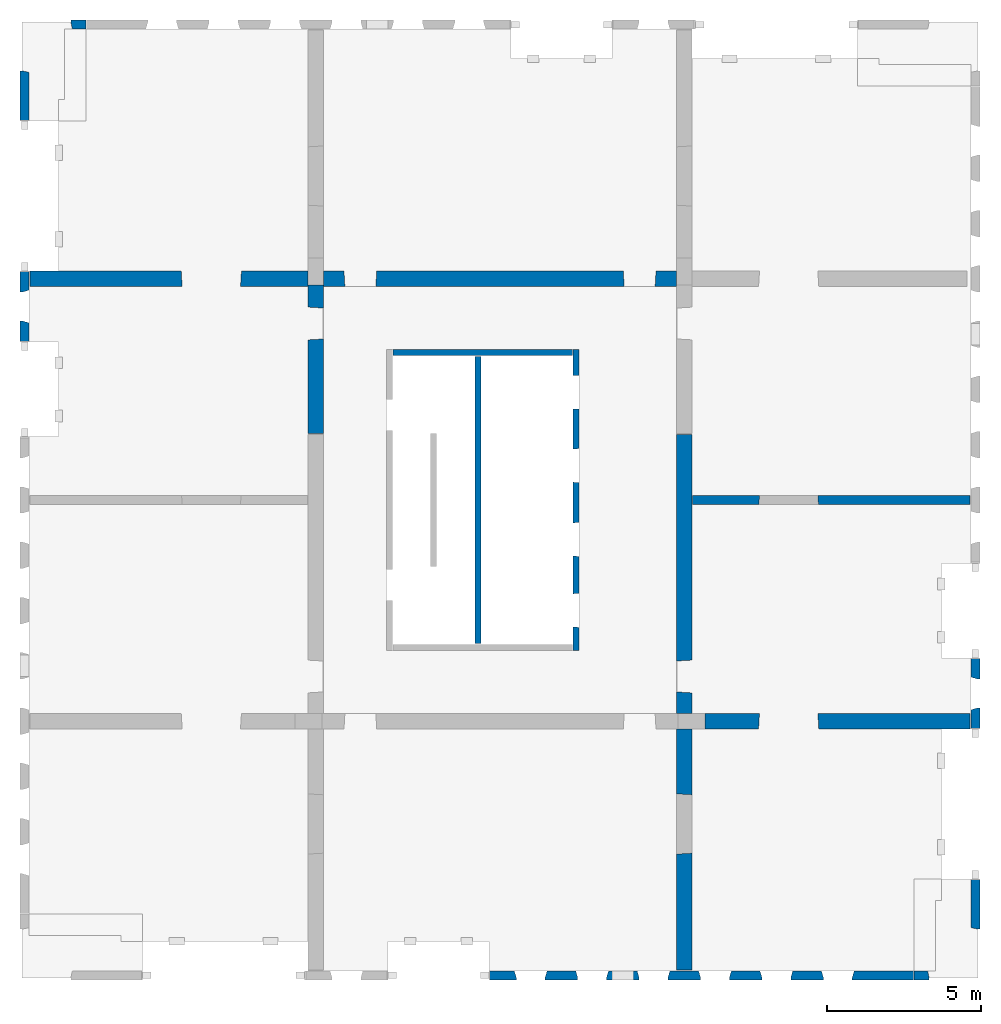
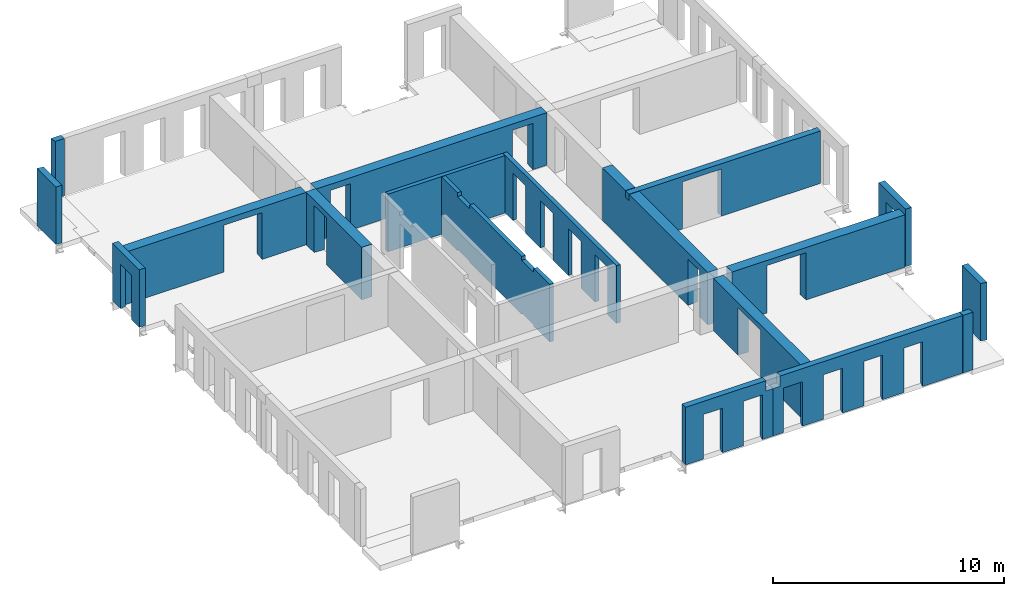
# One storey, part 3 of 4: 18 walls, 36 openings.
"""IFC2X3 building model written with IfcOpenShell, lengths in millimetres."""

from ifc_helpers import new_model, entity, si_unit, converted_unit, derived_unit, direction, frame, frame_2d, origin, origin_2d_with_axis, place, context, subcontext, project, spatial, rectangle, extrude, faceted_brep, material, layer, layer_set, layer_usage, type_object, element, save


model = new_model("IFC2X3")

# Units and contexts
model_context = context("Model", 3, precision=0.01, world=origin(), true_north=direction((6.12303176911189e-17, 1.0)))
body_context = subcontext(model_context, "Body", "Model", "MODEL_VIEW")
ifc_project = project(units=[si_unit("LENGTHUNIT", "METRE", prefix="MILLI"), si_unit("AREAUNIT", "SQUARE_METRE"), si_unit("VOLUMEUNIT", "CUBIC_METRE"), converted_unit("PLANEANGLEUNIT", "DEGREE", entity("IfcRatioMeasure", 0.0174532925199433), si_unit("PLANEANGLEUNIT", "RADIAN"), dimensions=[0, 0, 0, 0, 0, 0, 0]), si_unit("MASSUNIT", "GRAM", prefix="KILO"), derived_unit("MASSDENSITYUNIT", [(si_unit("MASSUNIT", "GRAM", prefix="KILO"), 1), (si_unit("LENGTHUNIT", "METRE"), -3)]), si_unit("TIMEUNIT", "SECOND"), si_unit("FREQUENCYUNIT", "HERTZ"), si_unit("THERMODYNAMICTEMPERATUREUNIT", "DEGREE_CELSIUS"), derived_unit("THERMALTRANSMITTANCEUNIT", [(si_unit("MASSUNIT", "GRAM", prefix="KILO"), 1), (si_unit("THERMODYNAMICTEMPERATUREUNIT", "KELVIN"), -1), (si_unit("TIMEUNIT", "SECOND"), -3)]), derived_unit("VOLUMETRICFLOWRATEUNIT", [(si_unit("LENGTHUNIT", "METRE"), 3), (si_unit("TIMEUNIT", "SECOND"), -1)]), si_unit("ELECTRICCURRENTUNIT", "AMPERE"), si_unit("ELECTRICVOLTAGEUNIT", "VOLT"), si_unit("POWERUNIT", "WATT"), si_unit("FORCEUNIT", "NEWTON", prefix="KILO"), si_unit("ILLUMINANCEUNIT", "LUX"), si_unit("LUMINOUSFLUXUNIT", "LUMEN"), si_unit("LUMINOUSINTENSITYUNIT", "CANDELA"), derived_unit("USERDEFINED", [(si_unit("MASSUNIT", "GRAM", prefix="KILO"), -1), (si_unit("LENGTHUNIT", "METRE"), -2), (si_unit("TIMEUNIT", "SECOND"), 3), (si_unit("LUMINOUSFLUXUNIT", "LUMEN"), 1)]), derived_unit("LINEARVELOCITYUNIT", [(si_unit("LENGTHUNIT", "METRE"), 1), (si_unit("TIMEUNIT", "SECOND"), -1)]), si_unit("PRESSUREUNIT", "PASCAL"), derived_unit("USERDEFINED", [(si_unit("LENGTHUNIT", "METRE"), -2), (si_unit("MASSUNIT", "GRAM", prefix="KILO"), 1), (si_unit("TIMEUNIT", "SECOND"), -2)])], contexts=[model_context])

# Site, building, storey
site_placement = place(None, origin())
site = spatial("IfcSite", under=ifc_project, at=site_placement, Name="Default", CompositionType="ELEMENT")
building_placement = place(site_placement, origin())
building = spatial("IfcBuilding", under=site, at=building_placement, Name="niet gebruiken", CompositionType="ELEMENT")
storey_placement = place(building_placement, frame((0.0, 0.0, 33300.0)))
storey = spatial("IfcBuildingStorey", under=building, at=storey_placement, Name="10 tiende verdieping", CompositionType="ELEMENT", Elevation=33300.0)

# Wall, openings
ifc_material = material(Name="NLRS_f2_beton prefab")
ifc_layer_1 = layer(ifc_material, 200.0)
ifc_layer_set_1 = layer_set([ifc_layer_1], Name="Basic Wall:NLRS_22.21_WA_beton prefab d=200_gen")
ifc_layer_usage_1 = layer_usage(ifc_layer_set_1, "AXIS2", "NEGATIVE", 100.0)
wall_type_1 = type_object("IfcWallType", Name="Basic Wall:NLRS_22.21_WA_beton prefab d=200_gen", PredefinedType="STANDARD", material=ifc_layer_set_1)
wall_1_placement = place(storey_placement, frame((144230.0, 22400.0, -50.0), z_axis=(0.0, 0.0, 1.0), x_axis=(0.0, -1.0, 0.0)))
wall_1 = element("IfcWallStandardCase", 1, at=wall_1_placement, inside=storey, type_object=wall_type_1, material=ifc_layer_usage_1, Name="Basic Wall:NLRS_22.21_WA_beton prefab d=200_gen", ObjectType="Basic Wall:NLRS_22.21_WA_beton prefab d=200_gen", context=body_context, shape_type="SweptSolid", body=[
    extrude(rectangle(XDim=9800.0, YDim=199.999999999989, at=frame_2d((4900.0, -3.69482222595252e-13), x_axis=(-1.0, 0.0))), origin(), (0.0, 0.0, 1.0), 3039.99999999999),
])
opening_1_placement = place(wall_1_placement, frame((9047.0, -100.0, 0.0)))
element("IfcOpeningElement", 2, at=opening_1_placement, cuts=wall_1, Name="Basic Wall:NLRS_22.21_WA_beton prefab d=200_gen", ObjectType="Opening", context=body_context, shape_type="Brep", body=[
    faceted_brep([(-1104.0, 200.0, 2502.0), (-1104.0, 200.0, 0.0), (-1092.0, 0.0, 0.0), (-1092.0, 0.0, 2490.0), (0.0, 200.0, 0.0), (-12.0, 0.0, 0.0), (-12.0, 0.0, 2490.0), (0.0, 200.0, 2502.0)], [[[0, 1, 2, 3]], [[1, 4, 5, 2]], [[6, 3, 2, 5]], [[7, 4, 1, 0]], [[7, 0, 3, 6]], [[4, 7, 6, 5]]]),
])
opening_2_placement = place(wall_1_placement, frame((6737.0, -100.0, 0.0)))
element("IfcOpeningElement", 3, at=opening_2_placement, cuts=wall_1, Name="Basic Wall:NLRS_22.21_WA_beton prefab d=200_gen", ObjectType="Opening", context=body_context, shape_type="Brep", body=[
    faceted_brep([(-1104.0, 200.0, 2502.0), (-1104.0, 200.0, 0.0), (-1092.0, 0.0, 0.0), (-1092.0, 0.0, 2490.0), (0.0, 200.0, 0.0), (-12.0, 0.0, 0.0), (-12.0, 0.0, 2490.0), (0.0, 200.0, 2502.0)], [[[0, 1, 2, 3]], [[1, 4, 5, 2]], [[6, 3, 2, 5]], [[7, 4, 1, 0]], [[7, 0, 3, 6]], [[4, 7, 6, 5]]]),
])
opening_3_placement = place(wall_1_placement, frame((4332.0, -100.0, 0.0)))
element("IfcOpeningElement", 4, at=opening_3_placement, cuts=wall_1, Name="Basic Wall:NLRS_22.21_WA_beton prefab d=200_gen", ObjectType="Opening", context=body_context, shape_type="Brep", body=[
    faceted_brep([(-1104.0, 200.0, 2502.0), (-1104.0, 200.0, 0.0), (-1092.0, 0.0, 0.0), (-1092.0, 0.0, 2490.0), (0.0, 200.0, 0.0), (-12.0, 0.0, 0.0), (-12.0, 0.0, 2490.0), (0.0, 200.0, 2502.0)], [[[0, 1, 2, 3]], [[1, 4, 5, 2]], [[6, 3, 2, 5]], [[7, 4, 1, 0]], [[7, 0, 3, 6]], [[4, 7, 6, 5]]]),
])
opening_4_placement = place(wall_1_placement, frame((1942.0, -100.0, 0.0)))
element("IfcOpeningElement", 5, at=opening_4_placement, cuts=wall_1, Name="Basic Wall:NLRS_22.21_WA_beton prefab d=200_gen", ObjectType="Opening", context=body_context, shape_type="Brep", body=[
    faceted_brep([(-1104.0, 200.0, 2502.0), (-1104.0, 200.0, 0.0), (-1092.0, 0.0, 0.0), (-1092.0, 0.0, 2490.0), (0.0, 200.0, 0.0), (-12.0, 0.0, 0.0), (-12.0, 0.0, 2490.0), (0.0, 200.0, 2502.0)], [[[0, 1, 2, 3]], [[1, 4, 5, 2]], [[6, 3, 2, 5]], [[7, 4, 1, 0]], [[7, 0, 3, 6]], [[4, 7, 6, 5]]]),
])

ifc_layer_usage_2 = layer_usage(ifc_layer_set_1, "AXIS2", "NEGATIVE", 100.0)
wall_2_placement = place(storey_placement, frame((141030.0, 22180.0, -50.0), z_axis=(0.0, 0.0, 1.0), x_axis=(0.0, -1.0, 0.0)))
wall_2 = element("IfcWallStandardCase", 6, at=wall_2_placement, inside=storey, type_object=wall_type_1, material=ifc_layer_usage_2, Name="Basic Wall:NLRS_22.21_WA_beton prefab d=200_gen", ObjectType="Basic Wall:NLRS_22.21_WA_beton prefab d=200_gen", context=body_context, shape_type="SweptSolid", body=[
    extrude(rectangle(XDim=9360.0, YDim=199.999999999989, at=frame_2d((4680.0, -2.8421709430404e-14), x_axis=(-1.0, 0.0))), origin(), (0.0, 0.0, 1.0), 3039.99999999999),
])
opening_5_placement = place(wall_2_placement, origin())
element("IfcOpeningElement", 7, at=opening_5_placement, cuts=wall_2, Name="Basic Wall:NLRS_22.21_WA_beton prefab d=200_gen", ObjectType="Opening", context=body_context, shape_type="SweptSolid", body=[
    extrude(rectangle(XDim=70.0000000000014, YDim=1044.00000000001, at=origin_2d_with_axis()), frame((7452.0, -100.0, 35.0), z_axis=(0.0, 1.0, 0.0), x_axis=(0.0, 0.0, -1.0)), (0.0, 0.0, 1.0), 199.999999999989),
])
opening_6_placement = place(wall_2_placement, origin())
element("IfcOpeningElement", 8, at=opening_6_placement, cuts=wall_2, Name="Basic Wall:NLRS_22.21_WA_beton prefab d=200_gen", ObjectType="Opening", context=body_context, shape_type="SweptSolid", body=[
    extrude(rectangle(XDim=70.0000000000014, YDim=1044.00000000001, at=origin_2d_with_axis()), frame((1908.0, -100.0, 35.0), z_axis=(0.0, 1.0, 0.0), x_axis=(0.0, 0.0, -1.0)), (0.0, 0.0, 1.0), 199.999999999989),
])
opening_7_placement = place(wall_2_placement, origin())
element("IfcOpeningElement", 9, at=opening_7_placement, cuts=wall_2, Name="Basic Wall:NLRS_22.21_WA_beton prefab d=200_gen", ObjectType="Opening", context=body_context, shape_type="SweptSolid", body=[
    extrude(rectangle(XDim=199.999999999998, YDim=1044.00000000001, at=frame_2d((-4.33431068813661e-12, 0.0), x_axis=(1.0, 0.0))), frame((1908.0, -100.0, 2940.0), z_axis=(0.0, 1.0, 0.0), x_axis=(0.0, 0.0, -1.0)), (0.0, 0.0, 1.0), 199.999999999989),
])
opening_8_placement = place(wall_2_placement, origin())
element("IfcOpeningElement", 10, at=opening_8_placement, cuts=wall_2, Name="Basic Wall:NLRS_22.21_WA_beton prefab d=200_gen", ObjectType="Opening", context=body_context, shape_type="SweptSolid", body=[
    extrude(rectangle(XDim=199.999999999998, YDim=1044.00000000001, at=frame_2d((-4.33431068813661e-12, 0.0), x_axis=(1.0, 0.0))), frame((7452.0, -100.0, 2940.0), z_axis=(0.0, 1.0, 0.0), x_axis=(0.0, 0.0, -1.0)), (0.0, 0.0, 1.0), 199.999999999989),
])
opening_9_placement = place(wall_2_placement, origin())
element("IfcOpeningElement", 11, at=opening_9_placement, cuts=wall_2, Name="Basic Wall:NLRS_22.21_WA_beton prefab d=200_gen", ObjectType="Recess", context=body_context, shape_type="SweptSolid", body=[
    extrude(rectangle(XDim=399.999999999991, YDim=280.000000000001, at=frame_2d((-2.1600499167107e-12, 2.1600499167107e-12), x_axis=(0.0, 1.0))), frame((770.0, -60.0, 438.0), z_axis=(0.0, 1.0, 0.0), x_axis=(1.0, 0.0, 0.0)), (0.0, 0.0, 1.0), 159.999999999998),
])
opening_10_placement = place(wall_2_placement, origin())
element("IfcOpeningElement", 12, at=opening_10_placement, cuts=wall_2, Name="Basic Wall:NLRS_22.21_WA_beton prefab d=200_gen", ObjectType="Recess", context=body_context, shape_type="SweptSolid", body=[
    extrude(rectangle(XDim=399.999999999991, YDim=280.000000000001, at=frame_2d((-2.1600499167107e-12, -2.1600499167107e-12), x_axis=(0.0, 1.0))), frame((1570.0, -60.0, 438.0), z_axis=(0.0, 1.0, 0.0), x_axis=(1.0, 0.0, 0.0)), (0.0, 0.0, 1.0), 159.999999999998),
])
opening_11_placement = place(wall_2_placement, origin())
element("IfcOpeningElement", 13, at=opening_11_placement, cuts=wall_2, Name="Basic Wall:NLRS_22.21_WA_beton prefab d=200_gen", ObjectType="Recess", context=body_context, shape_type="SweptSolid", body=[
    extrude(rectangle(XDim=399.999999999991, YDim=279.999999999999, at=frame_2d((-1.08002495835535e-12, -2.1600499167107e-12), x_axis=(0.0, 1.0))), frame((3160.0, -60.0, 438.0), z_axis=(0.0, 1.0, 0.0), x_axis=(1.0, 0.0, 0.0)), (0.0, 0.0, 1.0), 159.999999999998),
])
opening_12_placement = place(wall_2_placement, origin())
element("IfcOpeningElement", 14, at=opening_12_placement, cuts=wall_2, Name="Basic Wall:NLRS_22.21_WA_beton prefab d=200_gen", ObjectType="Recess", context=body_context, shape_type="SweptSolid", body=[
    extrude(rectangle(XDim=399.999999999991, YDim=279.999999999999, at=frame_2d((1.08002495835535e-12, -2.1600499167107e-12), x_axis=(0.0, 1.0))), frame((3960.0, -60.0, 438.0), z_axis=(0.0, 1.0, 0.0), x_axis=(1.0, 0.0, 0.0)), (0.0, 0.0, 1.0), 159.999999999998),
])

# Wall
ifc_layer_usage_3 = layer_usage(ifc_layer_set_1, "AXIS2", "NEGATIVE", 100.0)
wall_3_placement = place(storey_placement, frame((138270.0, 22300.0, -50.0)))
element("IfcWallStandardCase", 15, at=wall_3_placement, inside=storey, type_object=wall_type_1, material=ifc_layer_usage_3, Name="Basic Wall:NLRS_22.21_WA_beton prefab d=200_gen", ObjectType="Basic Wall:NLRS_22.21_WA_beton prefab d=200_gen", context=body_context, shape_type="SweptSolid", body=[
    extrude(rectangle(XDim=5839.99999999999, YDim=199.999999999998, at=frame_2d((2919.99999999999, -7.60280727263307e-13), x_axis=(-1.0, 0.0))), origin(), (0.0, 0.0, 1.0), 3039.99999999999),
])

# Wall, openings
ifc_layer_2 = layer(ifc_material, 300.0)
ifc_layer_set_2 = layer_set([ifc_layer_2], Name="Basic Wall:NLRS_22.21_WA_beton prefab d=300_gen")
ifc_layer_usage_4 = layer_usage(ifc_layer_set_2, "AXIS2", "NEGATIVE", 150.0)
wall_type_2 = type_object("IfcWallType", Name="Basic Wall:NLRS_22.21_WA_beton prefab d=300_gen", PredefinedType="STANDARD", material=ifc_layer_set_2)
wall_4_placement = place(storey_placement, frame((157060.0, 17500.0, -70.0), z_axis=(0.0, 0.0, 1.0), x_axis=(-1.0, 0.0, 0.0)))
wall_4 = element("IfcWallStandardCase", 16, at=wall_4_placement, inside=storey, type_object=wall_type_2, material=ifc_layer_usage_4, Name="Basic Wall:NLRS_22.21_WA_beton prefab d=300_gen", ObjectType="Basic Wall:NLRS_22.21_WA_beton prefab d=300_gen", context=body_context, shape_type="SweptSolid", body=[
    extrude(rectangle(XDim=9559.99999999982, YDim=300.000000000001, at=frame_2d((4779.99999999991, 8.38440428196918e-13), x_axis=(-1.0, 0.0))), origin(), (0.0, 0.0, 1.0), 2770.0),
])
opening_13_placement = place(wall_4_placement, frame((6878.0, 150.0, 0.0)))
element("IfcOpeningElement", 17, at=opening_13_placement, cuts=wall_4, Name="Basic Wall:NLRS_22.21_WA_beton prefab d=300_gen", ObjectType="Opening", context=body_context, shape_type="Brep", body=[
    faceted_brep([(-18.0, -300.0, 2470.0), (-1918.0, -300.0, 2470.0), (-1918.0, -300.0, 0.0), (-18.0, -300.0, 0.0), (0.0, 0.0, 2488.0), (0.0, 0.0, 0.0), (-1936.0, 0.0, 0.0), (-1936.0, 0.0, 2488.0)], [[[0, 1, 2, 3]], [[4, 5, 6, 7]], [[4, 7, 1, 0]], [[7, 6, 2, 1]], [[6, 5, 3, 2]], [[5, 4, 0, 3]]]),
])
opening_14_placement = place(wall_4_placement, origin())
element("IfcOpeningElement", 18, at=opening_14_placement, cuts=wall_4, Name="Basic Wall:NLRS_22.21_WA_beton prefab d=300_gen", ObjectType="Opening", context=body_context, shape_type="SweptSolid", body=[
    extrude(rectangle(XDim=2440.0, YDim=520.000000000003, at=frame_2d((-8.64019966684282e-12, 2.1600499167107e-12), x_axis=(0.0, 1.0))), frame((9300.0, 150.0, 1220.0), z_axis=(0.0, -1.0, 0.0), x_axis=(1.0, 0.0, 0.0)), (0.0, 0.0, 1.0), 300.0),
])

ifc_layer_3 = layer(ifc_material, 500.0)
ifc_layer_set_3 = layer_set([ifc_layer_3], Name="Basic Wall:NLRS_22.21_WA_beton prefab d=500_gen")
ifc_layer_usage_5 = layer_usage(ifc_layer_set_3, "AXIS2", "NEGATIVE", 250.0)
wall_type_3 = type_object("IfcWallType", Name="Basic Wall:NLRS_22.21_WA_beton prefab d=500_gen", PredefinedType="STANDARD", material=ifc_layer_set_3)
wall_5_placement = place(storey_placement, frame((136000.003540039, 24700.0, -70.0)))
wall_5 = element("IfcWallStandardCase", 19, at=wall_5_placement, inside=storey, type_object=wall_type_3, material=ifc_layer_usage_5, Name="Basic Wall:NLRS_22.21_WA_beton prefab d=500_gen", ObjectType="Basic Wall:NLRS_22.21_WA_beton prefab d=500_gen", context=body_context, shape_type="SweptSolid", body=[
    extrude(rectangle(XDim=11499.9964599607, YDim=499.999999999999, at=frame_2d((5749.99822998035, 0.0), x_axis=(-1.0, 0.0))), origin(), (0.0, 0.0, 1.0), 2770.00000000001),
])
opening_15_placement = place(wall_5_placement, frame((669.996459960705, -250.0, 0.0)))
element("IfcOpeningElement", 20, at=opening_15_placement, cuts=wall_5, Name="Basic Wall:NLRS_22.21_WA_beton prefab d=500_gen", ObjectType="Opening", context=body_context, shape_type="Brep", body=[
    faceted_brep([(1066.0, 500.0, 2478.0), (1036.0, 0.0, 2448.0), (1036.0, 0.0, 0.0), (1066.0, 500.0, 0.0), (30.0, 0.0, 0.0), (0.0, 500.0, 0.0), (30.0, 0.0, 2448.0), (0.0, 500.0, 2478.0)], [[[0, 1, 2, 3]], [[3, 2, 4, 5]], [[6, 4, 2, 1]], [[7, 0, 3, 5]], [[7, 6, 1, 0]], [[5, 4, 6, 7]]]),
])
opening_16_placement = place(wall_5_placement, frame((9763.99645996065, -250.0, 0.0)))
element("IfcOpeningElement", 21, at=opening_16_placement, cuts=wall_5, Name="Basic Wall:NLRS_22.21_WA_beton prefab d=500_gen", ObjectType="Opening", context=body_context, shape_type="Brep", body=[
    faceted_brep([(30.0, 0.0, 2448.0), (30.0, 0.0, 0.0), (1036.0, 0.0, 0.0), (1036.0, 0.0, 2448.0), (0.0, 500.0, 2478.0), (1066.0, 500.0, 2478.0), (1066.0, 500.0, 0.0), (0.0, 500.0, 0.0)], [[[0, 1, 2, 3]], [[4, 5, 6, 7]], [[4, 0, 3, 5]], [[5, 3, 2, 6]], [[6, 2, 1, 7]], [[7, 1, 0, 4]]]),
])

# Wall, opening
ifc_layer_usage_6 = layer_usage(ifc_layer_set_3, "AXIS2", "NEGATIVE", 250.0)
wall_6_placement = place(storey_placement, frame((135750.0, 24500.0, -70.0), z_axis=(0.0, 0.0, 1.0), x_axis=(0.0, -1.0, 0.0)))
wall_6 = element("IfcWallStandardCase", 22, at=wall_6_placement, inside=storey, type_object=wall_type_3, material=ifc_layer_usage_6, Name="Basic Wall:NLRS_22.21_WA_beton prefab d=500_gen", ObjectType="Basic Wall:NLRS_22.21_WA_beton prefab d=500_gen", context=body_context, shape_type="SweptSolid", body=[
    extrude(rectangle(XDim=4840.0, YDim=499.99999999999, at=frame_2d((2420.0, 0.0), x_axis=(-1.0, 0.0))), origin(), (0.0, 0.0, 1.0), 2770.00000000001),
])
opening_17_placement = place(wall_6_placement, frame((1786.0, -250.0, 0.0)))
element("IfcOpeningElement", 23, at=opening_17_placement, cuts=wall_6, Name="Basic Wall:NLRS_22.21_WA_beton prefab d=500_gen", ObjectType="Opening", context=body_context, shape_type="Brep", body=[
    faceted_brep([(-1066.0, 0.0, 2478.0), (-1036.0, 500.0, 2448.0), (-1036.0, 500.0, 0.0), (-1066.0, 0.0, 0.0), (-30.0, 500.0, 0.0), (0.0, 0.0, 0.0), (-30.0, 500.0, 2448.0), (0.0, 0.0, 2478.0)], [[[0, 1, 2, 3]], [[3, 2, 4, 5]], [[6, 4, 2, 1]], [[7, 0, 3, 5]], [[7, 6, 1, 0]], [[5, 4, 6, 7]]]),
])

ifc_layer_usage_7 = layer_usage(ifc_layer_set_3, "AXIS2", "NEGATIVE", 250.0)
wall_7_placement = place(storey_placement, frame((147750.0, 10050.0, -70.0), z_axis=(0.0, 0.0, 1.0), x_axis=(0.0, -1.0, 0.0)))
wall_7 = element("IfcWallStandardCase", 24, at=wall_7_placement, inside=storey, type_object=wall_type_3, material=ifc_layer_usage_7, Name="Basic Wall:NLRS_22.21_WA_beton prefab d=500_gen", ObjectType="Basic Wall:NLRS_22.21_WA_beton prefab d=500_gen", context=body_context, shape_type="SweptSolid", body=[
    extrude(rectangle(XDim=7859.99999999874, YDim=499.99999999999, at=frame_2d((3929.99999999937, -5.11590769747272e-13), x_axis=(-1.0, 0.0))), origin(), (0.0, 0.0, 1.0), 2770.0),
])
opening_18_placement = place(wall_7_placement, frame((4080.0, -250.0, 0.0)))
element("IfcOpeningElement", 25, at=opening_18_placement, cuts=wall_7, Name="Basic Wall:NLRS_22.21_WA_beton prefab d=500_gen", ObjectType="Opening", context=body_context, shape_type="Brep", body=[
    faceted_brep([(-30.0, 500.0, 2470.0), (-30.0, 500.0, 0.0), (-1930.0, 500.0, 0.0), (-1930.0, 500.0, 2470.0), (0.0, 0.0, 2500.0), (-1960.0, 0.0, 2500.0), (-1960.0, 0.0, 0.0), (0.0, 0.0, 0.0)], [[[0, 1, 2, 3]], [[4, 5, 6, 7]], [[4, 0, 3, 5]], [[5, 3, 2, 6]], [[6, 2, 1, 7]], [[7, 1, 0, 4]]]),
])

# Wall, openings
ifc_layer_usage_8 = layer_usage(ifc_layer_set_3, "AXIS2", "NEGATIVE", 250.0)
wall_8_placement = place(storey_placement, frame((147750.0, 19640.0, -70.0), z_axis=(0.0, 0.0, 1.0), x_axis=(0.0, -1.0, 0.0)))
wall_8 = element("IfcWallStandardCase", 26, at=wall_8_placement, inside=storey, type_object=wall_type_3, material=ifc_layer_usage_8, Name="Basic Wall:NLRS_22.21_WA_beton prefab d=500_gen", ObjectType="Basic Wall:NLRS_22.21_WA_beton prefab d=500_gen", context=body_context, shape_type="SweptSolid", body=[
    extrude(rectangle(XDim=9089.99999999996, YDim=499.99999999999, at=frame_2d((4544.99999999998, 0.0), x_axis=(-1.0, 0.0))), origin(), (0.0, 0.0, 1.0), 2770.00000000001),
])
opening_19_placement = place(wall_8_placement, frame((8420.0, -250.0, 0.0)))
element("IfcOpeningElement", 27, at=opening_19_placement, cuts=wall_8, Name="Basic Wall:NLRS_22.21_WA_beton prefab d=500_gen", ObjectType="Opening", context=body_context, shape_type="Brep", body=[
    faceted_brep([(-1066.0, 500.0, 2478.0), (-1066.0, 500.0, 0.0), (-1036.0, 0.0, 0.0), (-1036.0, 0.0, 2448.0), (0.0, 500.0, 0.0), (-30.0, 0.0, 0.0), (-30.0, 0.0, 2448.0), (0.0, 500.0, 2478.0)], [[[0, 1, 2, 3]], [[1, 4, 5, 2]], [[6, 3, 2, 5]], [[7, 4, 1, 0]], [[7, 0, 3, 6]], [[4, 7, 6, 5]]]),
])
opening_20_placement = place(wall_8_placement, origin())
element("IfcOpeningElement", 28, at=opening_20_placement, cuts=wall_8, Name="Basic Wall:NLRS_22.21_WA_beton prefab d=500_gen", ObjectType="Opening", context=body_context, shape_type="SweptSolid", body=[
    extrude(rectangle(XDim=350.000000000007, YDim=339.999999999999, at=frame_2d((-1.08002495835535e-12, 0.0), x_axis=(0.0, 1.0))), frame((2140.0, 250.0, 2595.0), z_axis=(0.0, -1.0, 0.0), x_axis=(-1.0, 0.0, 0.0)), (0.0, 0.0, 1.0), 500.0),
])

# Wall, opening
ifc_layer_usage_9 = layer_usage(ifc_layer_set_3, "AXIS2", "NEGATIVE", 250.0)
wall_9_placement = place(storey_placement, frame((148430.0, 10300.0, -70.0)))
wall_9 = element("IfcWallStandardCase", 29, at=wall_9_placement, inside=storey, type_object=wall_type_3, material=ifc_layer_usage_9, Name="Basic Wall:NLRS_22.21_WA_beton prefab d=500_gen", ObjectType="Basic Wall:NLRS_22.21_WA_beton prefab d=500_gen", context=body_context, shape_type="SweptSolid", body=[
    extrude(rectangle(XDim=8630.00000000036, YDim=499.999999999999, at=frame_2d((4315.00000000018, 2.70006239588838e-13), x_axis=(-1.0, 0.0))), origin(), (0.0, 0.0, 1.0), 2770.0),
])
opening_21_placement = place(wall_9_placement, frame((1740.0, -250.0, 0.0)))
element("IfcOpeningElement", 30, at=opening_21_placement, cuts=wall_9, Name="Basic Wall:NLRS_22.21_WA_beton prefab d=500_gen", ObjectType="Opening", context=body_context, shape_type="Brep", body=[
    faceted_brep([(30.0, 500.0, 2470.0), (1930.0, 500.0, 2470.0), (1930.0, 500.0, 0.0), (30.0, 500.0, 0.0), (0.0, 0.0, 2500.0), (0.0, 0.0, 0.0), (1960.0, 0.0, 0.0), (1960.0, 0.0, 2500.0)], [[[0, 1, 2, 3]], [[4, 5, 6, 7]], [[4, 7, 1, 0]], [[7, 6, 2, 1]], [[6, 5, 3, 2]], [[5, 4, 0, 3]]]),
])

ifc_layer_usage_10 = layer_usage(ifc_layer_set_3, "AXIS2", "NEGATIVE", 250.0)
wall_10_placement = place(storey_placement, frame((135500.003540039, 24700.0, -70.0), z_axis=(0.0, 0.0, 1.0), x_axis=(-1.0, 0.0, 0.0)))
wall_10 = element("IfcWallStandardCase", 31, at=wall_10_placement, inside=storey, type_object=wall_type_3, material=ifc_layer_usage_10, Name="Basic Wall:NLRS_22.21_WA_beton prefab d=500_gen", ObjectType="Basic Wall:NLRS_22.21_WA_beton prefab d=500_gen", context=body_context, shape_type="SweptSolid", body=[
    extrude(rectangle(XDim=9060.00354003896, YDim=499.999999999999, at=frame_2d((4530.00177001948, 7.24753590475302e-13), x_axis=(-1.0, 0.0))), origin(), (0.0, 0.0, 1.0), 2770.0),
])
opening_22_placement = place(wall_10_placement, frame((4130.00354003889, 250.0, 0.0)))
element("IfcOpeningElement", 32, at=opening_22_placement, cuts=wall_10, Name="Basic Wall:NLRS_22.21_WA_beton prefab d=500_gen", ObjectType="Opening", context=body_context, shape_type="Brep", body=[
    faceted_brep([(-1930.0, 0.0, 2470.0), (-30.0, 0.0, 2470.0), (-30.0, 0.0, 0.0), (-1930.0, 0.0, 0.0), (-1960.0, -500.0, 2500.0), (-1960.0, -500.0, 0.0), (0.0, -500.0, 0.0), (0.0, -500.0, 2500.0)], [[[0, 1, 2, 3]], [[4, 5, 6, 7]], [[4, 7, 1, 0]], [[7, 6, 2, 1]], [[6, 5, 3, 2]], [[5, 4, 0, 3]]]),
])

ifc_layer_4 = layer(ifc_material, 300.0)
ifc_layer_set_4 = layer_set([ifc_layer_4], Name="Basic Wall:NLRS_21.21_WA_beton prefab d=300/320_gen")
ifc_layer_usage_11 = layer_usage(ifc_layer_set_4, "AXIS2", "NEGATIVE", 150.0)
wall_type_4 = type_object("IfcWallType", Name="Basic Wall:NLRS_21.21_WA_beton prefab d=300/320_gen", PredefinedType="STANDARD", material=ifc_layer_set_4)
wall_11_placement = place(storey_placement, frame((157230.0, 12360.0, -50.0), z_axis=(0.0, 0.0, 1.0), x_axis=(0.0, -1.0, 0.0)))
wall_11 = element("IfcWallStandardCase", 33, at=wall_11_placement, inside=storey, type_object=wall_type_4, material=ifc_layer_usage_11, Name="Basic Wall:NLRS_21.21_WA_beton prefab d=300/320_gen", ObjectType="Basic Wall:NLRS_21.21_WA_beton prefab d=300/320_gen", context=body_context, shape_type="SweptSolid", body=[
    extrude(rectangle(XDim=2320.00000000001, YDim=300.000000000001, at=frame_2d((1160.0, -8.38440428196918e-12), x_axis=(-1.0, 0.0))), origin(), (0.0, 0.0, 1.0), 3040.0),
])
opening_23_placement = place(wall_11_placement, frame((1695.0, -150.0, -20.0)))
element("IfcOpeningElement", 34, at=opening_23_placement, cuts=wall_11, Name="Basic Wall:NLRS_21.21_WA_beton prefab d=300/320_gen", ObjectType="Opening", context=body_context, shape_type="Brep", body=[
    faceted_brep([(-1070.0, 0.0, 2405.0), (-1070.0, 0.0, 0.0), (0.0, 0.0, 0.0), (0.0, 0.0, 2405.0), (-65.0, 219.0, 2370.0), (-1005.0, 219.0, 2370.0), (-65.0, 219.0, 0.0), (-1005.0, 219.0, 0.0), (-1005.0, 300.0, 0.0), (-65.0, 300.0, 0.0), (-1005.0, 300.0, 2370.0), (-65.0, 300.0, 2370.0)], [[[0, 1, 2, 3]], [[3, 4, 5, 0]], [[2, 6, 4, 3]], [[1, 7, 8, 9, 6, 2]], [[0, 5, 7, 1]], [[10, 11, 9, 8]], [[10, 5, 4, 11]], [[11, 4, 6, 9]], [[8, 7, 5, 10]]]),
])

ifc_layer_usage_12 = layer_usage(ifc_layer_set_4, "AXIS2", "NEGATIVE", 150.0)
wall_12_placement = place(storey_placement, frame((126270.0, 22640.0, -50.0), z_axis=(0.0, 0.0, 1.0), x_axis=(0.0, 1.0, 0.0)))
wall_12 = element("IfcWallStandardCase", 35, at=wall_12_placement, inside=storey, type_object=wall_type_4, material=ifc_layer_usage_12, Name="Basic Wall:NLRS_21.21_WA_beton prefab d=300/320_gen", ObjectType="Basic Wall:NLRS_21.21_WA_beton prefab d=300/320_gen", context=body_context, shape_type="SweptSolid", body=[
    extrude(rectangle(XDim=2320.0, YDim=300.000000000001, at=frame_2d((1160.0, -3.60955709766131e-12), x_axis=(-1.0, 0.0))), origin(), (0.0, 0.0, 1.0), 3040.0),
])
opening_24_placement = place(wall_12_placement, frame((625.0, 150.0, -20.0)))
element("IfcOpeningElement", 36, at=opening_24_placement, cuts=wall_12, Name="Basic Wall:NLRS_21.21_WA_beton prefab d=300/320_gen", ObjectType="Opening", context=body_context, shape_type="Brep", body=[
    faceted_brep([(0.0, -300.0, 2405.0), (0.0, -300.0, 0.0), (1070.0, -300.0, 0.0), (1070.0, -300.0, 2405.0), (1005.0, -81.0, 2370.0), (65.0, -81.0, 2370.0), (1005.0, -81.0, 0.0), (65.0, -81.0, 0.0), (65.0, 0.0, 0.0), (1005.0, 0.0, 0.0), (65.0, 0.0, 2370.0), (1005.0, 0.0, 2370.0)], [[[0, 1, 2, 3]], [[3, 4, 5, 0]], [[2, 6, 4, 3]], [[1, 7, 8, 9, 6, 2]], [[0, 5, 7, 1]], [[10, 11, 9, 8]], [[10, 5, 4, 11]], [[11, 4, 6, 9]], [[8, 7, 5, 10]]]),
])

ifc_layer_usage_13 = layer_usage(ifc_layer_set_4, "AXIS2", "NEGATIVE", 150.0)
wall_13_placement = place(storey_placement, frame((127780.0, 32980.0, -50.0)))
wall_13 = element("IfcWallStandardCase", 37, at=wall_13_placement, inside=storey, type_object=wall_type_4, material=ifc_layer_usage_13, Name="Basic Wall:NLRS_21.21_WA_beton prefab d=300/320_gen", ObjectType="Basic Wall:NLRS_21.21_WA_beton prefab d=300/320_gen", context=body_context, shape_type="SweptSolid", body=[
    extrude(rectangle(XDim=489.999999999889, YDim=300.000000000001, at=frame_2d((244.999999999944, -6.67910171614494e-13), x_axis=(-1.0, 0.0))), origin(), (0.0, 0.0, 1.0), 3040.0),
])
opening_25_placement = place(wall_13_placement, frame((0.0, -250.0, 0.0)))
element("IfcOpeningElement", 38, at=opening_25_placement, cuts=wall_13, Name="Basic Wall:NLRS_21.21_WA_beton prefab d=300/320_gen", ObjectType="Opening", context=body_context, shape_type="Brep", body=[
    faceted_brep([(0.0, 0.0, 3040.0), (65.0, 0.0, 3040.0), (0.0, 319.0, 3040.0), (0.0, 0.0, 0.0), (0.0, 319.0, 0.0), (65.0, 0.0, 0.0)], [[[0, 1, 2]], [[3, 4, 5]], [[1, 0, 3, 5]], [[0, 2, 4, 3]], [[2, 1, 5, 4]]]),
])

ifc_layer_usage_14 = layer_usage(ifc_layer_set_4, "AXIS2", "NEGATIVE", 150.0)
wall_14_placement = place(storey_placement, frame((126270.0, 29840.0, -50.0), z_axis=(0.0, 0.0, 1.0), x_axis=(0.0, 1.0, 0.0)))
wall_14 = element("IfcWallStandardCase", 39, at=wall_14_placement, inside=storey, type_object=wall_type_4, material=ifc_layer_usage_14, Name="Basic Wall:NLRS_21.21_WA_beton prefab d=300/320_gen", ObjectType="Basic Wall:NLRS_21.21_WA_beton prefab d=300/320_gen", context=body_context, shape_type="SweptSolid", body=[
    extrude(rectangle(XDim=1629.99999999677, YDim=300.000000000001, at=frame_2d((814.999999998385, 8.95283847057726e-13), x_axis=(-1.0, 0.0))), origin(), (0.0, 0.0, 1.0), 3040.0),
])
opening_26_placement = place(wall_14_placement, frame((1565.0, 69.0, 0.0)))
element("IfcOpeningElement", 40, at=opening_26_placement, cuts=wall_14, Name="Basic Wall:NLRS_21.21_WA_beton prefab d=300/320_gen", ObjectType="Opening", context=body_context, shape_type="Brep", body=[
    faceted_brep([(65.0, -319.0, 3040.0), (65.0, 0.0, 3040.0), (0.0, -319.0, 3040.0), (65.0, -319.0, 0.0), (0.0, -319.0, 0.0), (65.0, 0.0, 0.0)], [[[0, 1, 2]], [[3, 4, 5]], [[2, 4, 3, 0]], [[0, 3, 5, 1]], [[1, 5, 4, 2]]]),
])

ifc_layer_usage_15 = layer_usage(ifc_layer_set_4, "AXIS2", "NEGATIVE", 150.0)
wall_15_placement = place(storey_placement, frame((155720.0, 2020.0, -50.0), z_axis=(0.0, 0.0, 1.0), x_axis=(-1.0, 0.0, 0.0)))
wall_15 = element("IfcWallStandardCase", 41, at=wall_15_placement, inside=storey, type_object=wall_type_4, material=ifc_layer_usage_15, Name="Basic Wall:NLRS_21.21_WA_beton prefab d=300/320_gen", ObjectType="Basic Wall:NLRS_21.21_WA_beton prefab d=300/320_gen", context=body_context, shape_type="SweptSolid", body=[
    extrude(rectangle(XDim=489.999999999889, YDim=300.0, at=frame_2d((244.999999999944, 4.2632564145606e-14), x_axis=(-1.0, 0.0))), origin(), (0.0, 0.0, 1.0), 3040.0),
])
opening_27_placement = place(wall_15_placement, frame((65.0, 69.0, 0.0)))
element("IfcOpeningElement", 42, at=opening_27_placement, cuts=wall_15, Name="Basic Wall:NLRS_21.21_WA_beton prefab d=300/320_gen", ObjectType="Opening", context=body_context, shape_type="Brep", body=[
    faceted_brep([(-65.0, -319.0, 3040.0), (0.0, -319.0, 3040.0), (-65.0, 0.0, 3040.0), (-65.0, -319.0, 0.0), (-65.0, 0.0, 0.0), (0.0, -319.0, 0.0)], [[[0, 1, 2]], [[3, 4, 5]], [[1, 0, 3, 5]], [[0, 2, 4, 3]], [[2, 1, 5, 4]]]),
])

ifc_layer_usage_16 = layer_usage(ifc_layer_set_4, "AXIS2", "NEGATIVE", 150.0)
wall_16_placement = place(storey_placement, frame((157230.0, 5160.0, -50.0), z_axis=(0.0, 0.0, 1.0), x_axis=(0.0, -1.0, 0.0)))
wall_16 = element("IfcWallStandardCase", 43, at=wall_16_placement, inside=storey, type_object=wall_type_4, material=ifc_layer_usage_16, Name="Basic Wall:NLRS_21.21_WA_beton prefab d=300/320_gen", ObjectType="Basic Wall:NLRS_21.21_WA_beton prefab d=300/320_gen", context=body_context, shape_type="SweptSolid", body=[
    extrude(rectangle(XDim=1629.99999999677, YDim=300.000000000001, at=frame_2d((814.999999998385, 4.76063632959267e-12), x_axis=(-1.0, 0.0))), origin(), (0.0, 0.0, 1.0), 3040.0),
])
opening_28_placement = place(wall_16_placement, frame((1630.0, -250.0, 0.0)))
element("IfcOpeningElement", 44, at=opening_28_placement, cuts=wall_16, Name="Basic Wall:NLRS_21.21_WA_beton prefab d=300/320_gen", ObjectType="Opening", context=body_context, shape_type="Brep", body=[
    faceted_brep([(0.0, 0.0, 3040.0), (0.0, 319.0, 3040.0), (-65.0, 0.0, 3040.0), (0.0, 0.0, 0.0), (-65.0, 0.0, 0.0), (0.0, 319.0, 0.0)], [[[0, 1, 2]], [[3, 4, 5]], [[2, 4, 3, 0]], [[0, 3, 5, 1]], [[1, 5, 4, 2]]]),
])

# Wall, openings
ifc_layer_usage_17 = layer_usage(ifc_layer_set_4, "AXIS2", "NEGATIVE", 150.0)
wall_17_placement = place(storey_placement, frame((155210.0, 2020.0, -50.0), z_axis=(0.0, 0.0, 1.0), x_axis=(-1.0, 0.0, 0.0)))
wall_17 = element("IfcWallStandardCase", 45, at=wall_17_placement, inside=storey, type_object=wall_type_4, material=ifc_layer_usage_17, Name="Basic Wall:NLRS_21.21_WA_beton prefab d=300/320_gen", ObjectType="Basic Wall:NLRS_21.21_WA_beton prefab d=300/320_gen", context=body_context, shape_type="SweptSolid", body=[
    extrude(rectangle(XDim=9449.99999999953, YDim=300.0, at=frame_2d((4724.99999999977, -1.4210854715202e-14), x_axis=(-1.0, 0.0))), origin(), (0.0, 0.0, 1.0), 3040.0),
])
opening_29_placement = place(wall_17_placement, frame((4995.0, 150.0, -20.0)))
element("IfcOpeningElement", 46, at=opening_29_placement, cuts=wall_17, Name="Basic Wall:NLRS_21.21_WA_beton prefab d=300/320_gen", ObjectType="Opening", context=body_context, shape_type="Brep", body=[
    faceted_brep([(0.0, -300.0, 2405.0), (-1070.0, -300.0, 2405.0), (-1070.0, -300.0, 0.0), (0.0, -300.0, 0.0), (-65.0, -81.0, 2370.0), (-1005.0, -81.0, 2370.0), (-1005.0, -81.0, 0.0), (-1005.0, 0.0, 0.0), (-65.0, 0.0, 0.0), (-65.0, -81.0, 0.0), (-65.0, 0.0, 2370.0), (-1005.0, 0.0, 2370.0)], [[[0, 1, 2, 3]], [[1, 0, 4, 5]], [[2, 1, 5, 6]], [[3, 2, 6, 7, 8, 9]], [[0, 3, 9, 4]], [[10, 8, 7, 11]], [[10, 11, 5, 4]], [[11, 7, 6, 5]], [[8, 10, 4, 9]]]),
])
opening_30_placement = place(wall_17_placement, frame((2995.0, 150.0, -20.0)))
element("IfcOpeningElement", 47, at=opening_30_placement, cuts=wall_17, Name="Basic Wall:NLRS_21.21_WA_beton prefab d=300/320_gen", ObjectType="Opening", context=body_context, shape_type="Brep", body=[
    faceted_brep([(0.0, -300.0, 2405.0), (-1070.0, -300.0, 2405.0), (-1070.0, -300.0, 0.0), (0.0, -300.0, 0.0), (-65.0, -81.0, 2370.0), (-1005.0, -81.0, 2370.0), (-1005.0, -81.0, 0.0), (-1005.0, 0.0, 0.0), (-65.0, 0.0, 0.0), (-65.0, -81.0, 0.0), (-65.0, 0.0, 2370.0), (-1005.0, 0.0, 2370.0)], [[[0, 1, 2, 3]], [[1, 0, 4, 5]], [[2, 1, 5, 6]], [[3, 2, 6, 7, 8, 9]], [[0, 3, 9, 4]], [[10, 8, 7, 11]], [[10, 11, 5, 4]], [[11, 7, 6, 5]], [[8, 10, 4, 9]]]),
])
opening_31_placement = place(wall_17_placement, frame((6995.0, 150.0, -20.0)))
element("IfcOpeningElement", 48, at=opening_31_placement, cuts=wall_17, Name="Basic Wall:NLRS_21.21_WA_beton prefab d=300/320_gen", ObjectType="Opening", context=body_context, shape_type="Brep", body=[
    faceted_brep([(-1070.0, -300.0, 2405.0), (-1070.0, -300.0, 0.0), (0.0, -300.0, 0.0), (0.0, -300.0, 2405.0), (-65.0, -81.0, 2370.0), (-1005.0, -81.0, 2370.0), (-65.0, -81.0, 0.0), (-1005.0, -81.0, 0.0), (-1005.0, 0.0, 0.0), (-65.0, 0.0, 0.0), (-1005.0, 0.0, 2370.0), (-65.0, 0.0, 2370.0)], [[[0, 1, 2, 3]], [[3, 4, 5, 0]], [[2, 6, 4, 3]], [[1, 7, 8, 9, 6, 2]], [[0, 5, 7, 1]], [[10, 11, 9, 8]], [[10, 5, 4, 11]], [[11, 4, 6, 9]], [[8, 7, 5, 10]]]),
])
opening_32_placement = place(wall_17_placement, frame((8995.0, 150.0, -20.0)))
element("IfcOpeningElement", 49, at=opening_32_placement, cuts=wall_17, Name="Basic Wall:NLRS_21.21_WA_beton prefab d=300/320_gen", ObjectType="Opening", context=body_context, shape_type="Brep", body=[
    faceted_brep([(-1070.0, -300.0, 2405.0), (-1070.0, -300.0, 0.0), (0.0, -300.0, 0.0), (0.0, -300.0, 2405.0), (-65.0, -81.0, 2370.0), (-1005.0, -81.0, 2370.0), (-65.0, -81.0, 0.0), (-1005.0, -81.0, 0.0), (-1005.0, 0.0, 0.0), (-65.0, 0.0, 0.0), (-1005.0, 0.0, 2370.0), (-65.0, 0.0, 2370.0)], [[[0, 1, 2, 3]], [[3, 4, 5, 0]], [[2, 6, 4, 3]], [[1, 7, 8, 9, 6, 2]], [[0, 5, 7, 1]], [[10, 11, 9, 8]], [[10, 5, 4, 11]], [[11, 4, 6, 9]], [[8, 7, 5, 10]]]),
])
opening_33_placement = place(wall_17_placement, origin())
element("IfcOpeningElement", 50, at=opening_33_placement, cuts=wall_17, Name="Basic Wall:NLRS_21.21_WA_beton prefab d=300/320_gen", ObjectType="Opening", context=body_context, shape_type="SweptSolid", body=[
    extrude(rectangle(XDim=534.999999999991, YDim=345.000000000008, at=origin_2d_with_axis()), frame((9277.49999999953, 150.0, 2772.50000000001), z_axis=(0.0, -1.0, 0.0), x_axis=(0.0, 0.0, 1.0)), (0.0, 0.0, 1.0), 300.0),
])

ifc_layer_usage_18 = layer_usage(ifc_layer_set_4, "AXIS2", "NEGATIVE", 150.0)
wall_18_placement = place(storey_placement, frame((145740.0, 2020.0, -50.0), z_axis=(0.0, 0.0, 1.0), x_axis=(-1.0, 0.0, 0.0)))
wall_18 = element("IfcWallStandardCase", 51, at=wall_18_placement, inside=storey, type_object=wall_type_4, material=ifc_layer_usage_18, Name="Basic Wall:NLRS_21.21_WA_beton prefab d=300/320_gen", ObjectType="Basic Wall:NLRS_21.21_WA_beton prefab d=300/320_gen", context=body_context, shape_type="SweptSolid", body=[
    extrude(rectangle(XDim=4350.00000000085, YDim=300.0, at=frame_2d((2175.00000000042, 2.8421709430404e-14), x_axis=(-1.0, 0.0))), origin(), (0.0, 0.0, 1.0), 3040.0),
])
opening_34_placement = place(wall_18_placement, frame((1525.0, 150.0, -20.0)))
element("IfcOpeningElement", 52, at=opening_34_placement, cuts=wall_18, Name="Basic Wall:NLRS_21.21_WA_beton prefab d=300/320_gen", ObjectType="Opening", context=body_context, shape_type="Brep", body=[
    faceted_brep([(0.0, -300.0, 2405.0), (-1070.0, -300.0, 2405.0), (-1070.0, -300.0, 0.0), (0.0, -300.0, 0.0), (-65.0, -81.0, 2370.0), (-1005.0, -81.0, 2370.0), (-1005.0, -81.0, 0.0), (-1005.0, 0.0, 0.0), (-65.0, 0.0, 0.0), (-65.0, -81.0, 0.0), (-65.0, 0.0, 2370.0), (-1005.0, 0.0, 2370.0)], [[[0, 1, 2, 3]], [[1, 0, 4, 5]], [[2, 1, 5, 6]], [[3, 2, 6, 7, 8, 9]], [[0, 3, 9, 4]], [[10, 8, 7, 11]], [[10, 11, 5, 4]], [[11, 7, 6, 5]], [[8, 10, 4, 9]]]),
])
opening_35_placement = place(wall_18_placement, frame((3525.0, 150.0, -20.0)))
element("IfcOpeningElement", 53, at=opening_35_placement, cuts=wall_18, Name="Basic Wall:NLRS_21.21_WA_beton prefab d=300/320_gen", ObjectType="Opening", context=body_context, shape_type="Brep", body=[
    faceted_brep([(0.0, -300.0, 2405.0), (-1070.0, -300.0, 2405.0), (-1070.0, -300.0, 0.0), (0.0, -300.0, 0.0), (-65.0, -81.0, 2370.0), (-1005.0, -81.0, 2370.0), (-1005.0, -81.0, 0.0), (-1005.0, 0.0, 0.0), (-65.0, 0.0, 0.0), (-65.0, -81.0, 0.0), (-65.0, 0.0, 2370.0), (-1005.0, 0.0, 2370.0)], [[[0, 1, 2, 3]], [[1, 0, 4, 5]], [[2, 1, 5, 6]], [[3, 2, 6, 7, 8, 9]], [[0, 3, 9, 4]], [[10, 8, 7, 11]], [[10, 11, 5, 4]], [[11, 7, 6, 5]], [[8, 10, 4, 9]]]),
])
opening_36_placement = place(wall_18_placement, origin())
element("IfcOpeningElement", 54, at=opening_36_placement, cuts=wall_18, Name="Basic Wall:NLRS_21.21_WA_beton prefab d=300/320_gen", ObjectType="Opening", context=body_context, shape_type="SweptSolid", body=[
    extrude(rectangle(XDim=534.999999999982, YDim=345.000000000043, at=frame_2d((-1.73230318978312e-11, 0.0), x_axis=(0.0, 1.0))), frame((172.500000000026, 150.0, 2772.50000000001), z_axis=(0.0, -1.0, 0.0), x_axis=(-1.0, 0.0, 0.0)), (0.0, 0.0, 1.0), 300.0),
])

save(model, "model.ifc")
